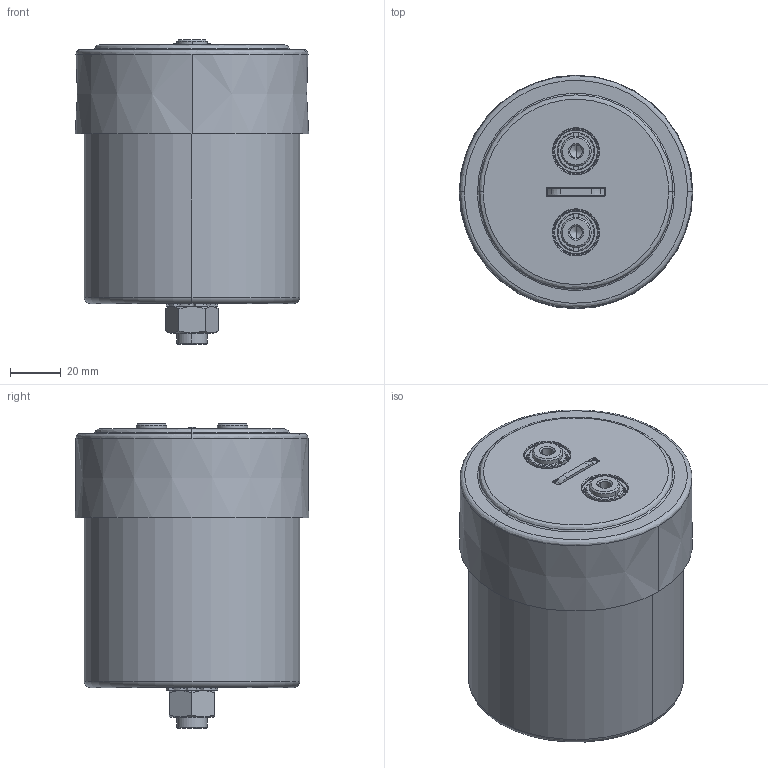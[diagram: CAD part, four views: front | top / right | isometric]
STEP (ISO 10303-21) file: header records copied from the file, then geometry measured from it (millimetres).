
FILE_DESCRIPTION (( 'STEP AP203' ), '1' );
FILE_NAME ('B25680Cx_85x102_104.STEP', '2021-09-13T03:26:28', ( '' ), ( '' ), 'SwSTEP 2.0', 'SolidWorks 2017', '' );
FILE_SCHEMA (( 'CONFIG_CONTROL_DESIGN' ));
Length unit declared in the file: millimetre
Products named in the file (1): B25680Cx_85x102_104
Bounding box: 92.08 x 92.08 x 120 mm (x, y, z)
Volume: 77586.4 mm3; surface area: 126851.2 mm2
Topology: 1 solids, 9 shells, 512 faces, 1230 edges, 772 vertices
Faces by surface type: plane 189, cylinder 168, bspline 64, cone 61, torus 30
Entity records: 19256 total; most frequent: CARTESIAN_POINT 7249, DIRECTION 2594, ORIENTED_EDGE 2452, EDGE_CURVE 1226, AXIS2_PLACEMENT_3D 1041, VERTEX_POINT 772, CIRCLE 592, EDGE_LOOP 572
